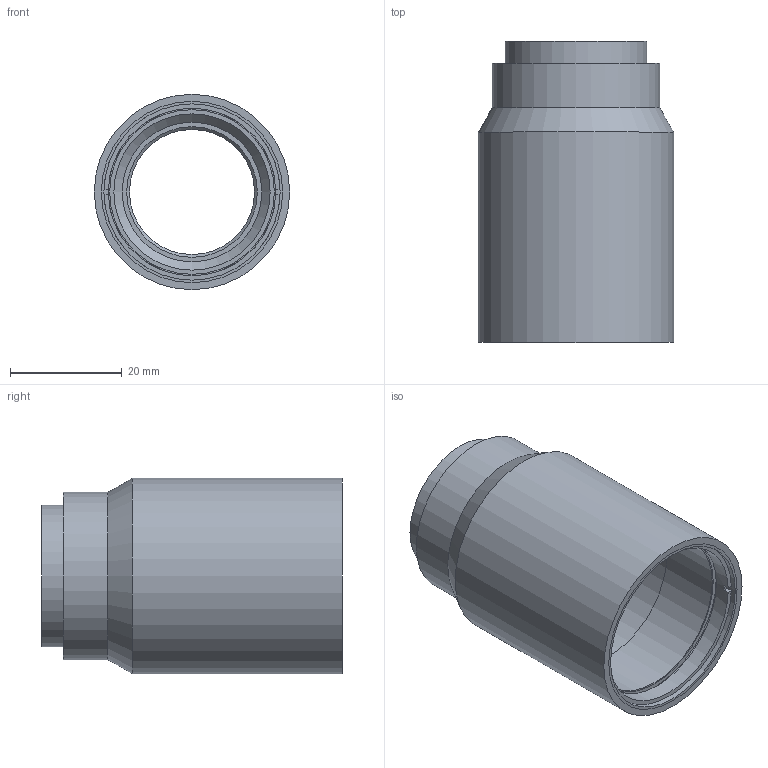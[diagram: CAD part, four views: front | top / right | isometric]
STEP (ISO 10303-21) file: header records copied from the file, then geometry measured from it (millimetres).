
FILE_DESCRIPTION(('Bauteilbeschreibung','HiCAD-Model','HiCAD-STEP-TRANSLATION','Bauteilbeschreibung'),'2;1');
FILE_NAME('D:/DATEN/HICAD/TRANSPORT/CAD_INTERNET_DOKU/065241_STEP.STP','2004-03-31T09:37:37+00:00',('Konstrukteur'),('Konstrukteur Firma GmbH'),'HiCAD2 V1102 STEP 20.9.2001','HiCAD2 V1102','confidential');
FILE_SCHEMA(('AUTOMOTIVE_DESIGN { 1 2 10303 214 0 1 1 1 }'));
Length unit declared in the file: millimetre
Products named in the file (11): A00; A0014699; A00146990; GEWINDEHUELSE; GEWINDEHUELSE0; A0014700; A0014701; A00147010; A0005950; A00059500; GEWINDEHUELSE1
Assembly tree (10 placements, depth 3):
  A00
    A0014699
      A00146990
      GEWINDEHUELSE
      GEWINDEHUELSE0
    A0014700
    A0014701
    A00147010
    A0005950
      A00059500
      GEWINDEHUELSE1
Bounding box: 35 x 53.9 x 35 mm (x, y, z)
Volume: 13698.7 mm3; surface area: 21679 mm2
Topology: 8 solids, 8 shells, 63 faces, 128 edges, 86 vertices
Faces by surface type: plane 37, cylinder 22, cone 4
Full cylindrical faces by diameter (mm): 22.4 x1, 24.426 x2, 25 x1, 25.4 x1, 29.5 x3, 30 x3, 31.5 x4, 31.58 x3, 32.5 x3, 35 x1
Entity records: 2765 total; most frequent: DIRECTION 320, CARTESIAN_POINT 253, ORIENTED_EDGE 186, COLOUR_RGB 164, PRESENTATION_STYLE_ASSIGNMENT 164, OVER_RIDING_STYLED_ITEM 156, AXIS2_PLACEMENT_3D 144, EDGE_LOOP 110
